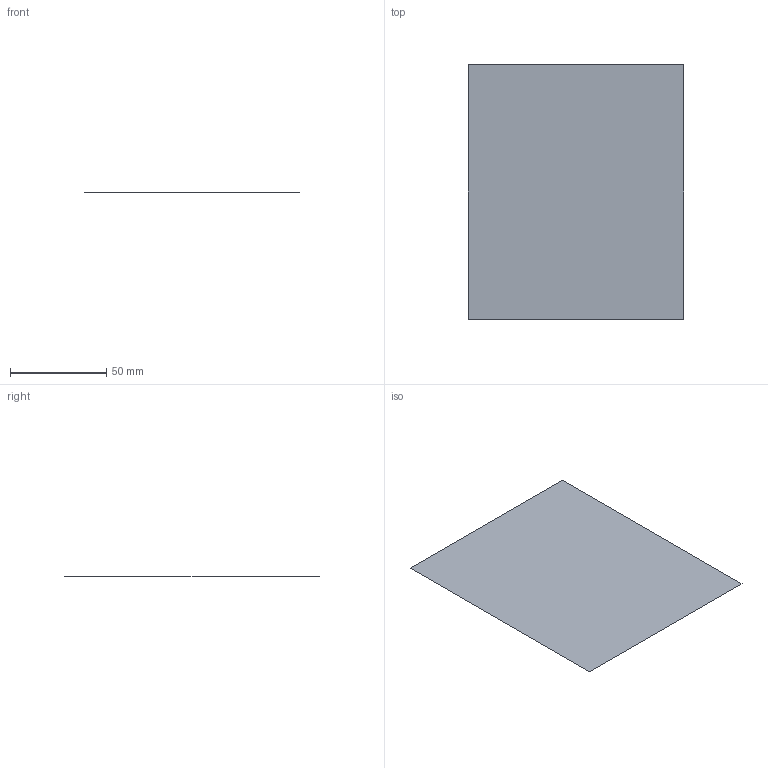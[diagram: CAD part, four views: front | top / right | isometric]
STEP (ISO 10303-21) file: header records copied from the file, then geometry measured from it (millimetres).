
FILE_DESCRIPTION(('CATIA V5 STEP Exchange'),'2;1');
FILE_NAME('C:\_Andres\UNIVERSIDAD\IQS\ASIGNATURAS\DAO\EXF\EXF-15161c\1original\Sala_García_Ej06-calculo_v22.stp','2016-03-04T20:57:43+00:00',('none'),('none'),'CATIA Version 5 Release 20 SP 1 (IN-10)','CATIA V5 STEP AP203','none');
FILE_SCHEMA(('CONFIG_CONTROL_DESIGN'));
Length unit declared in the file: millimetre
Products named in the file (1): Sala_García_Ej06-calculo_v22
Bounding box: 112 x 132 x 0 mm (x, y, z)
Surface area: 14784 mm2 (no closed solid volume)
Topology: 0 solids, 1 shells, 1 faces, 8 edges, 9 vertices
Faces by surface type: plane 1
Entity records: 130 total; most frequent: CARTESIAN_POINT 23, DIRECTION 12, VECTOR 8, LINE 8, COMPOSITE_CURVE_SEGMENT 4, ORIENTED_EDGE 4, CC_DESIGN_PERSON_AND_ORGANIZATION_ASSIGNMENT 4, PERSON_AND_ORGANIZATION_ROLE 4
